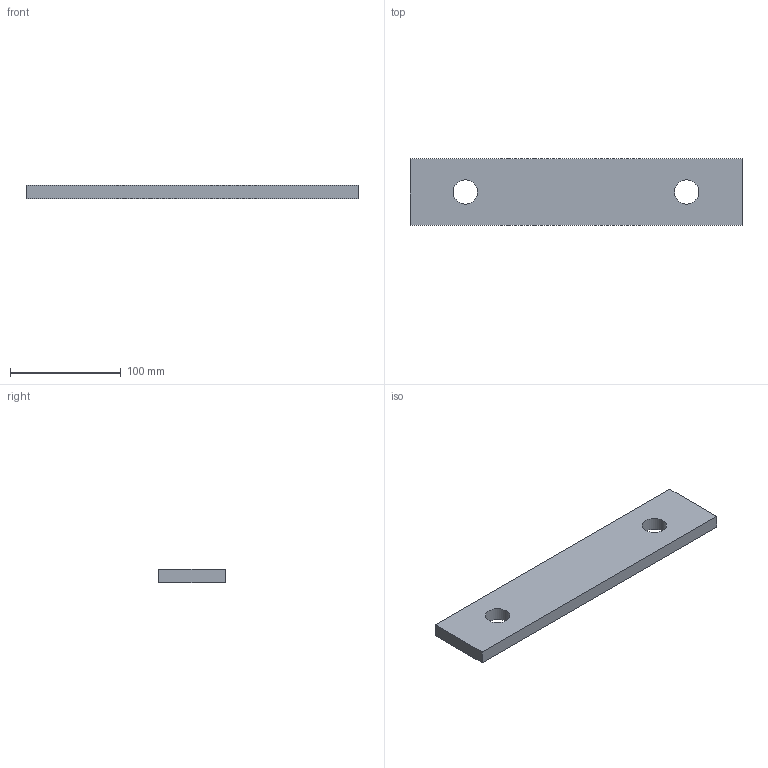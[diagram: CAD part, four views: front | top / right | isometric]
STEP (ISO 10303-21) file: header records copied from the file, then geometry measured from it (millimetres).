
FILE_DESCRIPTION(('Open CASCADE Model'),'2;1');
FILE_NAME('Open CASCADE Shape Model','2026-10-15T15:10:05',('Author'),( 'Open CASCADE'),'Open CASCADE STEP processor 8.0','Open CASCADE 8.0' ,'Unknown');
FILE_SCHEMA(('AUTOMOTIVE_DESIGN { 1 0 10303 214 1 1 1 1 }'));
Length unit declared in the file: millimetre
Products named in the file (1): TC02_DUPLICADOR_ALA_300x60x12_P05 136
Bounding box: 300 x 60 x 12 mm (x, y, z)
Volume: 206876.8 mm3; surface area: 44778.2 mm2
Topology: 1 solids, 1 shells, 8 faces, 18 edges, 12 vertices
Faces by surface type: plane 6, cylinder 2
Full cylindrical faces by diameter (mm): 22 x2
Entity records: 478 total; most frequent: DIRECTION 76, CARTESIAN_POINT 75, LINE 46, VECTOR 46, ORIENTED_EDGE 36, PCURVE 36, DEFINITIONAL_REPRESENTATION 36, EDGE_CURVE 18
